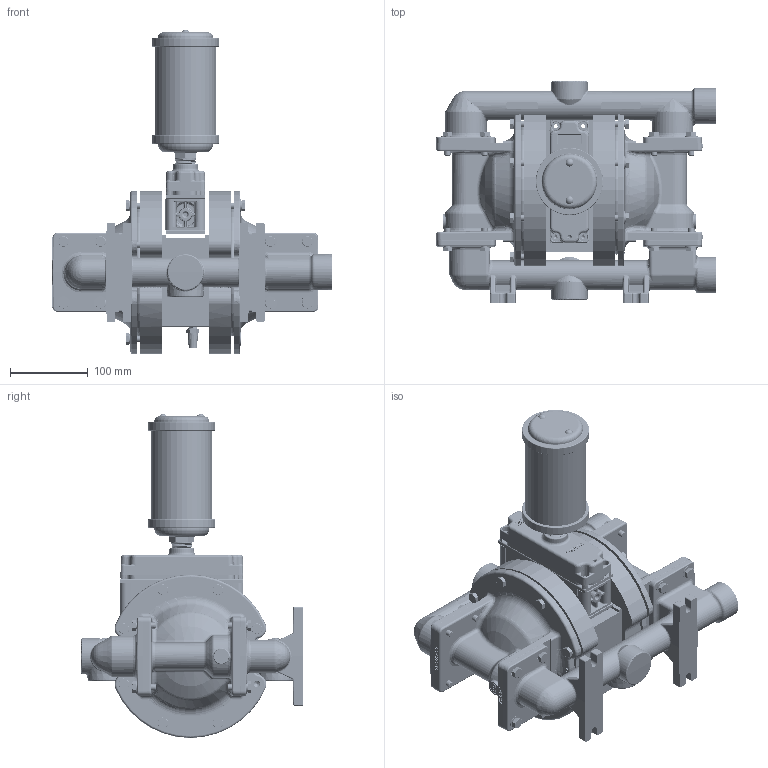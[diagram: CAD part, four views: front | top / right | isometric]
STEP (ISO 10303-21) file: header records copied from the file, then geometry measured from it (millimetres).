
FILE_DESCRIPTION((''),'2;1');
FILE_NAME('PS220_SS_TOP_ASM_SW0001','2018-05-03T',('10013162'),(''),'PRO/ENGINEER BY PARAMETRIC TECHNOLOGY CORPORATION, 2017170','PRO/ENGINEER BY PARAMETRIC TECHNOLOGY CORPORATION, 2017170','');
FILE_SCHEMA(('CONFIG_CONTROL_DESIGN'));
Length unit declared in the file: inch
Products named in the file (1): PS220_SS_TOP_ASM_SW0001
Bounding box: 360.62 x 285.5 x 416.86 mm (x, y, z)
Volume: 5608037 mm3; surface area: 899132.4 mm2
Topology: 5 solids, 8 shells, 9827 faces, 26652 edges, 17120 vertices
Faces by surface type: plane 6911, cylinder 1216, bspline 600, cone 537, torus 401, sphere 162
Entity records: 386813 total; most frequent: CARTESIAN_POINT 144485, ORIENTED_EDGE 52988, DIRECTION 46137, EDGE_CURVE 26494, VECTOR 20009, LINE 20009, VERTEX_POINT 17120, AXIS2_PLACEMENT_3D 13064
